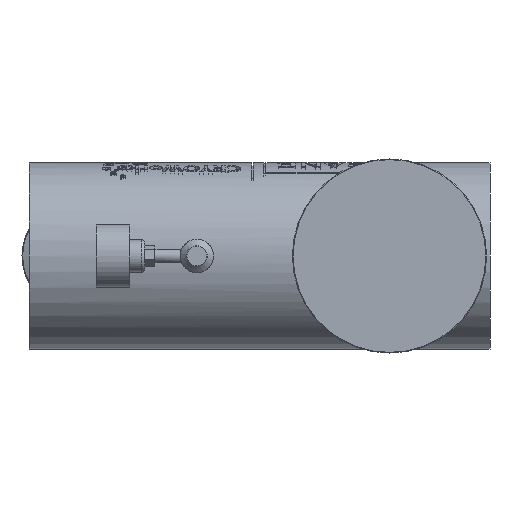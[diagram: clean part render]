
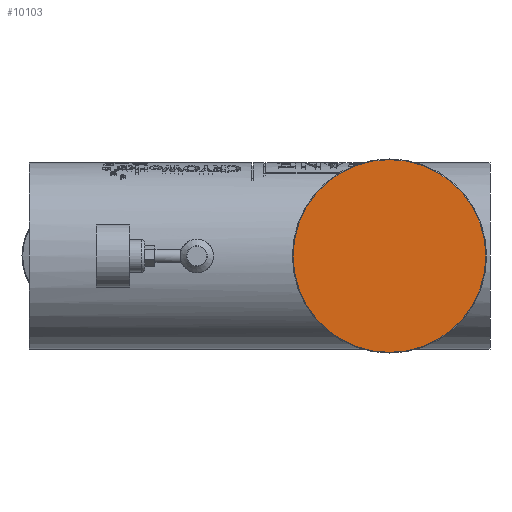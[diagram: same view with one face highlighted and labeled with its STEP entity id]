
A CAD part, left-side view. The second image highlights one B-rep face of the part: STEP entity #10103.
In plain terms, the highlighted planar face has unit normal (-1, 0, 0).
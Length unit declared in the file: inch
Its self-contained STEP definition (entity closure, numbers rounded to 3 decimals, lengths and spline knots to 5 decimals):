
#139 = CARTESIAN_POINT ( 'NONE',  ( 0., 2.8975, 0. ) ) ;
#944 = EDGE_LOOP ( 'NONE', ( #2400 ) ) ;
#1306 = DIRECTION ( 'NONE',  ( -1., 0., 0. ) ) ;
#2400 = ORIENTED_EDGE ( 'NONE', *, *, #15308, .T. ) ;
#3006 = AXIS2_PLACEMENT_3D ( 'NONE', #16793, #1306, #21259 ) ;
#4703 = AXIS2_PLACEMENT_3D ( 'NONE', #139, #15639, #15779 ) ;
#6407 = CARTESIAN_POINT ( 'NONE',  ( 0., 0., 2.8775 ) ) ;
#10103 = ADVANCED_FACE ( 'NONE', ( #11053 ), #26872, .T. ) ;
#11053 = FACE_OUTER_BOUND ( 'NONE', #944, .T. ) ;
#15283 = VERTEX_POINT ( 'NONE', #6407 ) ;
#15308 = EDGE_CURVE ( 'NONE', #15283, #15283, #20425, .T. ) ;
#15639 = DIRECTION ( 'NONE',  ( -1., 0., 0. ) ) ;
#15779 = DIRECTION ( 'NONE',  ( 0., 0., 1. ) ) ;
#16793 = CARTESIAN_POINT ( 'NONE',  ( 0., 0., 0. ) ) ;
#20425 = CIRCLE ( 'NONE', #3006, 2.8775 ) ;
#21259 = DIRECTION ( 'NONE',  ( 0., 0., 1. ) ) ;
#26872 = PLANE ( 'NONE',  #4703 ) ;
